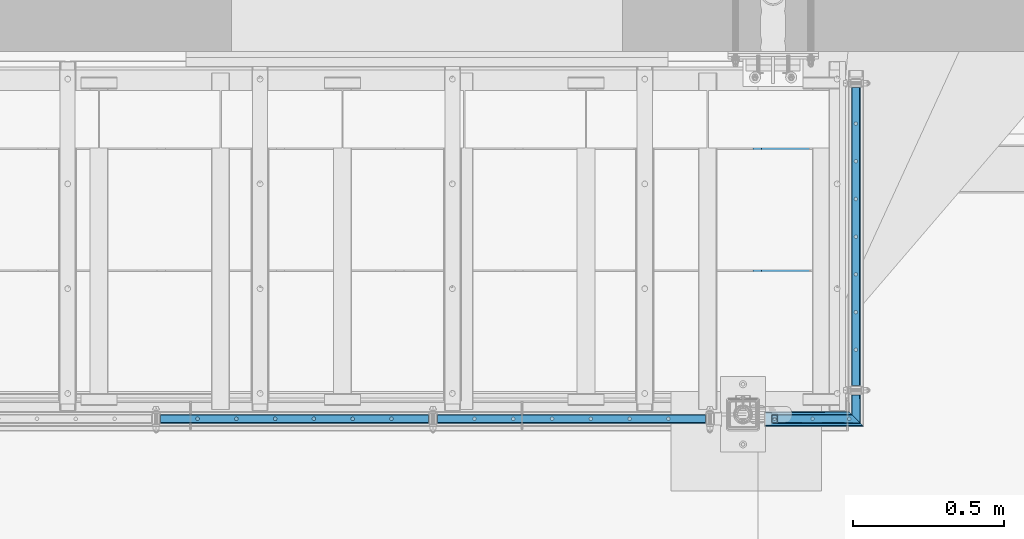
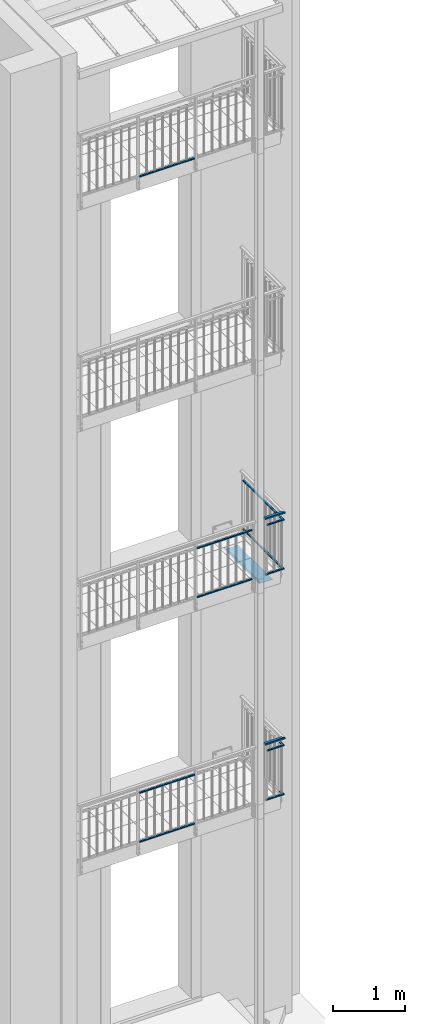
# One storey, part 51 of 162: 18 beams, 60 openings.
"""IFC2X3 building model written with IfcOpenShell, lengths in millimetres."""

from ifc_helpers import new_model, entity, si_unit, converted_unit, frame, frame_2d, origin, origin_with_axes, origin_2d, origin_2d_with_axis, place, context, project, spatial, polyline, hollow_rectangle, circle, outline, extrude, clip, halfspace, material, element, save


model = new_model("IFC2X3")

# Units and contexts
model_context = context("Model", 3, precision=1e-09, world=origin_with_axes())
ifc_project = project(units=[si_unit("LENGTHUNIT", "METRE", prefix="MILLI"), si_unit("AREAUNIT", "SQUARE_METRE"), si_unit("VOLUMEUNIT", "CUBIC_METRE"), converted_unit("PLANEANGLEUNIT", "DEGREE", entity("IfcPlaneAngleMeasure", 0.01745329), si_unit("PLANEANGLEUNIT", "RADIAN"), dimensions=[0, 0, 0, 0, 0, 0, 0])], contexts=[model_context])

# Site, building, storey
site_placement = place(None, origin_with_axes())
site = spatial("IfcSite", under=ifc_project, at=site_placement, Name="Hermannstra?e 1a, 60318 Frankfurt", CompositionType="ELEMENT")
building_placement = place(site_placement, origin_with_axes())
building = spatial("IfcBuilding", under=site, at=building_placement, Name="Struktur 1", CompositionType="ELEMENT")
storey_placement = place(building_placement, origin_with_axes())
storey = spatial("IfcBuildingStorey", under=building, at=storey_placement, Name="Default Storey", CompositionType="ELEMENT", Elevation=0.0)

# Beam, opening
ifc_material_1 = material(Name="S235JR")
beam_1_placement = place(None, frame((5889.540421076, 1515.609373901, 4940.0), z_axis=(-1.0, 0.0, 0.0), x_axis=(0.0, 0.0, -1.0)))
beam_1 = element("IfcBeam", 1, at=beam_1_placement, inside=storey, material=ifc_material_1, Name="-", ObjectType="-", context=model_context, shape_type="Clipping", body=[
    clip(extrude(hollow_rectangle(XDim=30.0, YDim=50.0, WallThickness=3.0, InnerFilletRadius=3.0, OuterFilletRadius=6.0, at=origin_2d()), origin(), (0.0, 0.0, 1.0), 341.231056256), halfspace(frame((4940.0, -2166.349288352, 2207.581758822), z_axis=(0.0, 0.707106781, 0.707106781), x_axis=(0.0, 0.707106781, -0.707106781)), True)),
])
opening_1_placement = place(beam_1_placement, frame((11.5, 0.0, 306.231056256), z_axis=(1.0, 0.0, 0.0), x_axis=(0.0, 0.0, 1.0)))
element("IfcOpeningElement", 2, at=opening_1_placement, cuts=beam_1, ObjectType="Opening", context=model_context, shape_type="SweptSolid", body=[
    extrude(circle(Radius=5.001, at=frame_2d((5.0, 0.0), x_axis=(1.0, 0.0))), origin(), (0.0, 0.0, 1.0), 4.0),
])

# Beam, openings
beam_2_placement = place(None, frame((5873.804462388, 1515.609373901, 4815.0), z_axis=(-1.0, 0.0, 0.0), x_axis=(0.0, 0.0, -1.0)))
beam_2 = element("IfcBeam", 3, at=beam_2_placement, inside=storey, material=ifc_material_1, Name="-", ObjectType="-", context=model_context, shape_type="Clipping", body=[
    clip(extrude(hollow_rectangle(XDim=20.0, YDim=30.0, WallThickness=2.0, InnerFilletRadius=2.0, OuterFilletRadius=4.0, at=origin_2d()), origin(), (0.0, 0.0, 1.0), 285.495097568), halfspace(frame((4815.0, -2166.349288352, 2191.845800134), z_axis=(0.0, 0.707106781, 0.707106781), x_axis=(0.0, 0.707106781, -0.707106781)), True)),
])
opening_2_placement = place(beam_2_placement, frame((7.5, 6.051, 169.495097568), z_axis=(-1.0, 0.0, 0.0), x_axis=(0.0, -1.0, 0.0)))
element("IfcOpeningElement", 4, at=opening_2_placement, cuts=beam_2, ObjectType="Opening", context=model_context, shape_type="SweptSolid", body=[
    extrude(circle(Radius=6.051, at=frame_2d((6.051, 0.0), x_axis=(1.0, 0.0))), origin(), (0.0, 0.0, -1.0), 3.0),
])
opening_3_placement = place(beam_2_placement, frame((7.5, 6.051, 47.495097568), z_axis=(-1.0, 0.0, 0.0), x_axis=(0.0, -1.0, 0.0)))
element("IfcOpeningElement", 5, at=opening_3_placement, cuts=beam_2, ObjectType="Opening", context=model_context, shape_type="SweptSolid", body=[
    extrude(circle(Radius=6.051, at=frame_2d((6.051, 0.0), x_axis=(1.0, 0.0))), origin(), (0.0, 0.0, -1.0), 3.0),
])

beam_3_placement = place(None, frame((5873.804462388, 1515.609373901, 3985.0), z_axis=(-1.0, 0.0, 0.0), x_axis=(0.0, 0.0, -1.0)))
beam_3 = element("IfcBeam", 6, at=beam_3_placement, inside=storey, material=ifc_material_1, Name="-", ObjectType="-", context=model_context, shape_type="Clipping", body=[
    clip(clip(extrude(hollow_rectangle(XDim=20.0, YDim=30.0, WallThickness=2.0, InnerFilletRadius=2.0, OuterFilletRadius=4.0, at=origin_2d()), origin(), (0.0, 0.0, 1.0), 320.990195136), halfspace(frame((4781.655389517, 1515.609373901, 5077.149072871), z_axis=(0.707106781, 0.0, -0.707106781), x_axis=(0.0, -1.0, 0.0)), True)), halfspace(frame((3985.0, -2166.349288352, 2191.845800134), z_axis=(0.0, 0.707106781, 0.707106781), x_axis=(0.0, 0.707106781, -0.707106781)), True)),
])
opening_4_placement = place(beam_3_placement, frame((-7.5, -6.051, 169.495097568), z_axis=(1.0, 0.0, 0.0), x_axis=(0.0, 1.0, 0.0)))
element("IfcOpeningElement", 7, at=opening_4_placement, cuts=beam_3, ObjectType="Opening", context=model_context, shape_type="SweptSolid", body=[
    extrude(circle(Radius=6.051, at=frame_2d((6.051, 0.0), x_axis=(1.0, 0.0))), origin(), (0.0, 0.0, -1.0), 3.0),
])
opening_5_placement = place(beam_3_placement, frame((7.5, 0.0, 265.495097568), z_axis=(1.0, 0.0, 0.0), x_axis=(0.0, 0.0, 1.0)))
element("IfcOpeningElement", 8, at=opening_5_placement, cuts=beam_3, ObjectType="Opening", context=model_context, shape_type="SweptSolid", body=[
    extrude(circle(Radius=5.001, at=frame_2d((30.0, 0.0), x_axis=(1.0, 0.0))), origin(), (0.0, 0.0, 1.0), 3.0),
])
opening_6_placement = place(beam_3_placement, frame((-7.5, -6.051, 47.495097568), z_axis=(1.0, 0.0, 0.0), x_axis=(0.0, 1.0, 0.0)))
element("IfcOpeningElement", 9, at=opening_6_placement, cuts=beam_3, ObjectType="Opening", context=model_context, shape_type="SweptSolid", body=[
    extrude(circle(Radius=6.051, at=frame_2d((6.051, 0.0), x_axis=(1.0, 0.0))), origin(), (0.0, 0.0, -1.0), 3.0),
])

# Beam, opening
beam_4_placement = place(None, frame((5848.30936482, 1490.114276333, 4815.0), z_axis=(0.0, 1.0, 0.0), x_axis=(0.0, 0.0, -1.0)))
beam_4 = element("IfcBeam", 10, at=beam_4_placement, inside=storey, material=ifc_material_1, Name="-", ObjectType="-", context=model_context, shape_type="Clipping", body=[
    clip(extrude(hollow_rectangle(XDim=20.0, YDim=30.0, WallThickness=2.0, InnerFilletRadius=2.0, OuterFilletRadius=4.0, at=origin_2d()), origin(), (0.0, 0.0, 1.0), 105.495097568), halfspace(frame((4815.0, 2166.349288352, 2191.845800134), z_axis=(0.0, -0.707106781, 0.707106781), x_axis=(0.0, 0.707106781, 0.707106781)), True)),
])
opening_7_placement = place(beam_4_placement, frame((0.0, -12.5, 10.495097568), z_axis=(0.0, -1.0, 0.0), x_axis=(0.0, 0.0, 1.0)))
element("IfcOpeningElement", 11, at=opening_7_placement, cuts=beam_4, ObjectType="Opening", context=model_context, shape_type="SweptSolid", body=[
    extrude(circle(Radius=4.001, at=frame_2d((10.0, 0.0), x_axis=(1.0, 0.0))), origin(), (0.0, 0.0, 1.0), 3.0),
])

beam_5_placement = place(None, frame((5848.30936482, 1490.114276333, 3985.0), z_axis=(0.0, 1.0, 0.0), x_axis=(0.0, 0.0, -1.0)))
beam_5 = element("IfcBeam", 12, at=beam_5_placement, inside=storey, material=ifc_material_1, Name="-", ObjectType="-", context=model_context, shape_type="Clipping", body=[
    clip(extrude(hollow_rectangle(XDim=20.0, YDim=30.0, WallThickness=2.0, InnerFilletRadius=2.0, OuterFilletRadius=4.0, at=origin_2d()), origin(), (0.0, 0.0, 1.0), 105.495097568), halfspace(frame((3985.0, 2166.349288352, 2191.845800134), z_axis=(0.0, -0.707106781, 0.707106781), x_axis=(0.0, 0.707106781, 0.707106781)), True)),
])
opening_8_placement = place(beam_5_placement, frame((0.0, -12.5, 10.496511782), z_axis=(0.0, -1.0, 0.0), x_axis=(0.0, 0.0, 1.0)))
element("IfcOpeningElement", 13, at=opening_8_placement, cuts=beam_5, ObjectType="Opening", context=model_context, shape_type="SweptSolid", body=[
    extrude(circle(Radius=4.001, at=frame_2d((10.0, 0.0), x_axis=(1.0, 0.0))), origin(), (0.0, 0.0, 1.0), 3.0),
])

# Beam
ifc_material_2 = material(Name="Alu")
beam_6_placement = place(None, frame((5742.80936482, 1625.609373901, 7577.0), z_axis=(0.0, -1.0, 0.0), x_axis=(1.0, 0.0, 0.0)))
element("IfcBeam", 14, at=beam_6_placement, inside=storey, material=ifc_material_2, Name="-", ObjectType="-", context=model_context, shape_type="SweptSolid", body=[
    extrude(outline(polyline([(-235.449159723, 49.122617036), (-210.0, 52.699263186), (-210.0, 18.0), (-2.0, 18.0), (-2.0, 0.0), (0.0, 0.0), (0.0, 20.0), (-208.0, 20.0), (-208.0, 55.0), (-235.727505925, 51.103153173), (-235.449159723, 49.122617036)])), origin(), (0.0, 0.0, -1.0), 960.0),
])

# Beam, opening
beam_7_placement = place(None, frame((5848.30936482, 1490.114276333, 7810.0), z_axis=(0.0, 1.0, 0.0), x_axis=(0.0, 0.0, -1.0)))
beam_7 = element("IfcBeam", 15, at=beam_7_placement, inside=storey, material=ifc_material_1, Name="-", ObjectType="-", context=model_context, shape_type="Clipping", body=[
    clip(extrude(hollow_rectangle(XDim=20.0, YDim=30.0, WallThickness=2.0, InnerFilletRadius=2.0, OuterFilletRadius=4.0, at=origin_2d()), origin(), (0.0, 0.0, 1.0), 105.495097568), halfspace(frame((7810.0, 2166.349288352, 2191.845800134), z_axis=(0.0, -0.707106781, 0.707106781), x_axis=(0.0, 0.707106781, 0.707106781)), True)),
])
opening_9_placement = place(beam_7_placement, frame((0.0, -12.5, 10.496511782), z_axis=(0.0, -1.0, 0.0), x_axis=(0.0, 0.0, 1.0)))
element("IfcOpeningElement", 16, at=opening_9_placement, cuts=beam_7, ObjectType="Opening", context=model_context, shape_type="SweptSolid", body=[
    extrude(circle(Radius=4.001, at=frame_2d((10.0, 0.0), x_axis=(1.0, 0.0))), origin(), (0.0, 0.0, 1.0), 3.0),
])

beam_8_placement = place(None, frame((5848.30936482, 1490.114276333, 8640.0), z_axis=(0.0, 1.0, 0.0), x_axis=(0.0, 0.0, -1.0)))
beam_8 = element("IfcBeam", 17, at=beam_8_placement, inside=storey, material=ifc_material_1, Name="-", ObjectType="-", context=model_context, shape_type="Clipping", body=[
    clip(extrude(hollow_rectangle(XDim=20.0, YDim=30.0, WallThickness=2.0, InnerFilletRadius=2.0, OuterFilletRadius=4.0, at=origin_2d()), origin(), (0.0, 0.0, 1.0), 105.495097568), halfspace(frame((8640.0, 2166.349288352, 2191.845800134), z_axis=(0.0, -0.707106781, 0.707106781), x_axis=(0.0, 0.707106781, 0.707106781)), True)),
])
opening_10_placement = place(beam_8_placement, frame((0.0, -12.5, 10.495097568), z_axis=(0.0, -1.0, 0.0), x_axis=(0.0, 0.0, 1.0)))
element("IfcOpeningElement", 18, at=opening_10_placement, cuts=beam_8, ObjectType="Opening", context=model_context, shape_type="SweptSolid", body=[
    extrude(circle(Radius=4.001, at=frame_2d((10.0, 0.0), x_axis=(1.0, 0.0))), origin(), (0.0, 0.0, 1.0), 3.0),
])

# Beam, openings
beam_9_placement = place(None, frame((5873.804462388, 1515.609373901, 7810.0), z_axis=(-1.0, 0.0, 0.0), x_axis=(0.0, 0.0, -1.0)))
beam_9 = element("IfcBeam", 19, at=beam_9_placement, inside=storey, material=ifc_material_1, Name="-", ObjectType="-", context=model_context, shape_type="Clipping", body=[
    clip(clip(extrude(hollow_rectangle(XDim=20.0, YDim=30.0, WallThickness=2.0, InnerFilletRadius=2.0, OuterFilletRadius=4.0, at=origin_2d()), origin(), (0.0, 0.0, 1.0), 320.990195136), halfspace(frame((6694.155389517, 1515.609373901, 6989.649072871), z_axis=(0.707106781, 0.0, -0.707106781), x_axis=(0.0, -1.0, 0.0)), True)), halfspace(frame((7810.0, -2166.349288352, 2191.845800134), z_axis=(0.0, 0.707106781, 0.707106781), x_axis=(0.0, 0.707106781, -0.707106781)), True)),
])
opening_11_placement = place(beam_9_placement, frame((-7.5, -6.051, 169.495097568), z_axis=(1.0, 0.0, 0.0), x_axis=(0.0, 1.0, 0.0)))
element("IfcOpeningElement", 20, at=opening_11_placement, cuts=beam_9, ObjectType="Opening", context=model_context, shape_type="SweptSolid", body=[
    extrude(circle(Radius=6.051, at=frame_2d((6.051, 0.0), x_axis=(1.0, 0.0))), origin(), (0.0, 0.0, -1.0), 3.0),
])
opening_12_placement = place(beam_9_placement, frame((7.5, 0.0, 265.495097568), z_axis=(1.0, 0.0, 0.0), x_axis=(0.0, 0.0, 1.0)))
element("IfcOpeningElement", 21, at=opening_12_placement, cuts=beam_9, ObjectType="Opening", context=model_context, shape_type="SweptSolid", body=[
    extrude(circle(Radius=5.001, at=frame_2d((30.0, 0.0), x_axis=(1.0, 0.0))), origin(), (0.0, 0.0, 1.0), 3.0),
])
opening_13_placement = place(beam_9_placement, frame((-7.5, -6.051, 47.495097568), z_axis=(1.0, 0.0, 0.0), x_axis=(0.0, 1.0, 0.0)))
element("IfcOpeningElement", 22, at=opening_13_placement, cuts=beam_9, ObjectType="Opening", context=model_context, shape_type="SweptSolid", body=[
    extrude(circle(Radius=6.051, at=frame_2d((6.051, 0.0), x_axis=(1.0, 0.0))), origin(), (0.0, 0.0, -1.0), 3.0),
])

beam_10_placement = place(None, frame((5873.804462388, 1515.609373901, 8640.0), z_axis=(-1.0, 0.0, 0.0), x_axis=(0.0, 0.0, -1.0)))
beam_10 = element("IfcBeam", 23, at=beam_10_placement, inside=storey, material=ifc_material_1, Name="-", ObjectType="-", context=model_context, shape_type="Clipping", body=[
    clip(extrude(hollow_rectangle(XDim=20.0, YDim=30.0, WallThickness=2.0, InnerFilletRadius=2.0, OuterFilletRadius=4.0, at=origin_2d()), origin(), (0.0, 0.0, 1.0), 285.495097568), halfspace(frame((8640.0, -2166.349288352, 2191.845800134), z_axis=(0.0, 0.707106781, 0.707106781), x_axis=(0.0, 0.707106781, -0.707106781)), True)),
])
opening_14_placement = place(beam_10_placement, frame((7.5, 6.051, 169.495097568), z_axis=(-1.0, 0.0, 0.0), x_axis=(0.0, -1.0, 0.0)))
element("IfcOpeningElement", 24, at=opening_14_placement, cuts=beam_10, ObjectType="Opening", context=model_context, shape_type="SweptSolid", body=[
    extrude(circle(Radius=6.051, at=frame_2d((6.051, 0.0), x_axis=(1.0, 0.0))), origin(), (0.0, 0.0, -1.0), 3.0),
])
opening_15_placement = place(beam_10_placement, frame((7.5, 6.051, 47.495097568), z_axis=(-1.0, 0.0, 0.0), x_axis=(0.0, -1.0, 0.0)))
element("IfcOpeningElement", 25, at=opening_15_placement, cuts=beam_10, ObjectType="Opening", context=model_context, shape_type="SweptSolid", body=[
    extrude(circle(Radius=6.051, at=frame_2d((6.051, 0.0), x_axis=(1.0, 0.0))), origin(), (0.0, 0.0, -1.0), 3.0),
])

# Beam, opening
beam_11_placement = place(None, frame((5889.540421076, 1515.609373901, 8765.0), z_axis=(-1.0, 0.0, 0.0), x_axis=(0.0, 0.0, -1.0)))
beam_11 = element("IfcBeam", 26, at=beam_11_placement, inside=storey, material=ifc_material_1, Name="-", ObjectType="-", context=model_context, shape_type="Clipping", body=[
    clip(extrude(hollow_rectangle(XDim=30.0, YDim=50.0, WallThickness=3.0, InnerFilletRadius=3.0, OuterFilletRadius=6.0, at=origin_2d()), origin(), (0.0, 0.0, 1.0), 341.231056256), halfspace(frame((8765.0, -2166.349288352, 2207.581758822), z_axis=(0.0, 0.707106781, 0.707106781), x_axis=(0.0, 0.707106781, -0.707106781)), True)),
])
opening_16_placement = place(beam_11_placement, frame((11.5, 0.0, 306.231056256), z_axis=(1.0, 0.0, 0.0), x_axis=(0.0, 0.0, 1.0)))
element("IfcOpeningElement", 27, at=opening_16_placement, cuts=beam_11, ObjectType="Opening", context=model_context, shape_type="SweptSolid", body=[
    extrude(circle(Radius=5.001, at=frame_2d((5.0, 0.0), x_axis=(1.0, 0.0))), origin(), (0.0, 0.0, 1.0), 4.0),
])

# Beam, openings
beam_12_placement = place(None, frame((4458.30936482, 1515.609373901, 8640.0), z_axis=(-1.0, 0.0, 0.0), x_axis=(0.0, 0.0, -1.0)))
beam_12 = element("IfcBeam", 28, at=beam_12_placement, inside=storey, material=ifc_material_1, Name="-", ObjectType="-", context=model_context, shape_type="SweptSolid", body=[
    extrude(hollow_rectangle(XDim=20.0, YDim=30.0, WallThickness=2.0, InnerFilletRadius=2.0, OuterFilletRadius=4.0, at=origin_2d()), origin(), (0.0, 0.0, -1.0), 890.0),
])
opening_17_placement = place(beam_12_placement, frame((7.5, 0.0, -251.714285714), z_axis=(1.0, 0.0, 0.0), x_axis=(0.0, -1.0, 0.0)))
element("IfcOpeningElement", 29, at=opening_17_placement, cuts=beam_12, ObjectType="Opening", context=model_context, shape_type="SweptSolid", body=[
    extrude(circle(Radius=6.051, at=origin_2d_with_axis()), origin(), (0.0, 0.0, 1.0), 3.0),
])
opening_18_placement = place(beam_12_placement, frame((7.5, 0.0, -122.857142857), z_axis=(1.0, 0.0, 0.0), x_axis=(0.0, -1.0, 0.0)))
element("IfcOpeningElement", 30, at=opening_18_placement, cuts=beam_12, ObjectType="Opening", context=model_context, shape_type="SweptSolid", body=[
    extrude(circle(Radius=6.051, at=origin_2d_with_axis()), origin(), (0.0, 0.0, 1.0), 3.0),
])
opening_19_placement = place(beam_12_placement, frame((7.5, 0.0, -509.428571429), z_axis=(1.0, 0.0, 0.0), x_axis=(0.0, -1.0, 0.0)))
element("IfcOpeningElement", 31, at=opening_19_placement, cuts=beam_12, ObjectType="Opening", context=model_context, shape_type="SweptSolid", body=[
    extrude(circle(Radius=6.051, at=origin_2d_with_axis()), origin(), (0.0, 0.0, 1.0), 3.0),
])
opening_20_placement = place(beam_12_placement, frame((7.5, 0.0, -380.571428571), z_axis=(1.0, 0.0, 0.0), x_axis=(0.0, -1.0, 0.0)))
element("IfcOpeningElement", 32, at=opening_20_placement, cuts=beam_12, ObjectType="Opening", context=model_context, shape_type="SweptSolid", body=[
    extrude(circle(Radius=6.051, at=origin_2d_with_axis()), origin(), (0.0, 0.0, 1.0), 3.0),
])
opening_21_placement = place(beam_12_placement, frame((7.5, 0.0, -638.285714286), z_axis=(1.0, 0.0, 0.0), x_axis=(0.0, -1.0, 0.0)))
element("IfcOpeningElement", 33, at=opening_21_placement, cuts=beam_12, ObjectType="Opening", context=model_context, shape_type="SweptSolid", body=[
    extrude(circle(Radius=6.051, at=origin_2d_with_axis()), origin(), (0.0, 0.0, 1.0), 3.0),
])
opening_22_placement = place(beam_12_placement, frame((7.5, 0.0, -767.142857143), z_axis=(1.0, 0.0, 0.0), x_axis=(0.0, -1.0, 0.0)))
element("IfcOpeningElement", 34, at=opening_22_placement, cuts=beam_12, ObjectType="Opening", context=model_context, shape_type="SweptSolid", body=[
    extrude(circle(Radius=6.051, at=origin_2d_with_axis()), origin(), (0.0, 0.0, 1.0), 3.0),
])

beam_13_placement = place(None, frame((4458.30936482, 1515.609373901, 7810.0), z_axis=(-1.0, 0.0, 0.0), x_axis=(0.0, 0.0, -1.0)))
beam_13 = element("IfcBeam", 35, at=beam_13_placement, inside=storey, material=ifc_material_1, Name="-", ObjectType="-", context=model_context, shape_type="SweptSolid", body=[
    extrude(hollow_rectangle(XDim=20.0, YDim=30.0, WallThickness=2.0, InnerFilletRadius=2.0, OuterFilletRadius=4.0, at=origin_2d()), origin(), (0.0, 0.0, -1.0), 890.0),
])
opening_23_placement = place(beam_13_placement, frame((-7.5, 0.0, -122.857142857), z_axis=(-1.0, 0.0, 0.0), x_axis=(0.0, 1.0, 0.0)))
element("IfcOpeningElement", 36, at=opening_23_placement, cuts=beam_13, ObjectType="Opening", context=model_context, shape_type="SweptSolid", body=[
    extrude(circle(Radius=6.051, at=origin_2d_with_axis()), origin(), (0.0, 0.0, 1.0), 3.0),
])
opening_24_placement = place(beam_13_placement, frame((-7.5, 0.0, -251.714285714), z_axis=(-1.0, 0.0, 0.0), x_axis=(0.0, 1.0, 0.0)))
element("IfcOpeningElement", 37, at=opening_24_placement, cuts=beam_13, ObjectType="Opening", context=model_context, shape_type="SweptSolid", body=[
    extrude(circle(Radius=6.051, at=origin_2d_with_axis()), origin(), (0.0, 0.0, 1.0), 3.0),
])
opening_25_placement = place(beam_13_placement, frame((-7.5, 0.0, -638.285714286), z_axis=(-1.0, 0.0, 0.0), x_axis=(0.0, 1.0, 0.0)))
element("IfcOpeningElement", 38, at=opening_25_placement, cuts=beam_13, ObjectType="Opening", context=model_context, shape_type="SweptSolid", body=[
    extrude(circle(Radius=6.051, at=origin_2d_with_axis()), origin(), (0.0, 0.0, 1.0), 3.0),
])
opening_26_placement = place(beam_13_placement, frame((-7.5, 0.0, -509.428571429), z_axis=(-1.0, 0.0, 0.0), x_axis=(0.0, 1.0, 0.0)))
element("IfcOpeningElement", 39, at=opening_26_placement, cuts=beam_13, ObjectType="Opening", context=model_context, shape_type="SweptSolid", body=[
    extrude(circle(Radius=6.051, at=origin_2d_with_axis()), origin(), (0.0, 0.0, 1.0), 3.0),
])
opening_27_placement = place(beam_13_placement, frame((-7.5, 0.0, -767.142857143), z_axis=(-1.0, 0.0, 0.0), x_axis=(0.0, 1.0, 0.0)))
element("IfcOpeningElement", 40, at=opening_27_placement, cuts=beam_13, ObjectType="Opening", context=model_context, shape_type="SweptSolid", body=[
    extrude(circle(Radius=6.051, at=origin_2d_with_axis()), origin(), (0.0, 0.0, 1.0), 3.0),
])
opening_28_placement = place(beam_13_placement, frame((-7.5, 0.0, -380.571428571), z_axis=(-1.0, 0.0, 0.0), x_axis=(0.0, 1.0, 0.0)))
element("IfcOpeningElement", 41, at=opening_28_placement, cuts=beam_13, ObjectType="Opening", context=model_context, shape_type="SweptSolid", body=[
    extrude(circle(Radius=6.051, at=origin_2d_with_axis()), origin(), (0.0, 0.0, 1.0), 3.0),
])

beam_14_placement = place(None, frame((5848.30936482, 2615.609373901, 8640.0), z_axis=(0.0, 1.0, 0.0), x_axis=(0.0, 0.0, -1.0)))
beam_14 = element("IfcBeam", 42, at=beam_14_placement, inside=storey, material=ifc_material_1, Name="-", ObjectType="-", context=model_context, shape_type="SweptSolid", body=[
    extrude(hollow_rectangle(XDim=20.0, YDim=30.0, WallThickness=2.0, InnerFilletRadius=2.0, OuterFilletRadius=4.0, at=origin_2d()), origin(), (0.0, 0.0, -1.0), 990.0),
])
opening_29_placement = place(beam_14_placement, frame((7.5, 0.0, -495.0), z_axis=(1.0, 0.0, 0.0), x_axis=(0.0, -1.0, 0.0)))
element("IfcOpeningElement", 43, at=opening_29_placement, cuts=beam_14, ObjectType="Opening", context=model_context, shape_type="SweptSolid", body=[
    extrude(circle(Radius=6.051, at=origin_2d_with_axis()), origin(), (0.0, 0.0, 1.0), 3.0),
])
opening_30_placement = place(beam_14_placement, frame((7.5, 0.0, -870.75), z_axis=(1.0, 0.0, 0.0), x_axis=(0.0, -1.0, 0.0)))
element("IfcOpeningElement", 44, at=opening_30_placement, cuts=beam_14, ObjectType="Opening", context=model_context, shape_type="SweptSolid", body=[
    extrude(circle(Radius=6.051, at=origin_2d_with_axis()), origin(), (0.0, 0.0, 1.0), 3.0),
])
opening_31_placement = place(beam_14_placement, frame((7.5, 0.0, -620.25), z_axis=(1.0, 0.0, 0.0), x_axis=(0.0, -1.0, 0.0)))
element("IfcOpeningElement", 45, at=opening_31_placement, cuts=beam_14, ObjectType="Opening", context=model_context, shape_type="SweptSolid", body=[
    extrude(circle(Radius=6.051, at=origin_2d_with_axis()), origin(), (0.0, 0.0, 1.0), 3.0),
])
opening_32_placement = place(beam_14_placement, frame((7.5, 0.0, -745.5), z_axis=(1.0, 0.0, 0.0), x_axis=(0.0, -1.0, 0.0)))
element("IfcOpeningElement", 46, at=opening_32_placement, cuts=beam_14, ObjectType="Opening", context=model_context, shape_type="SweptSolid", body=[
    extrude(circle(Radius=6.051, at=origin_2d_with_axis()), origin(), (0.0, 0.0, 1.0), 3.0),
])
opening_33_placement = place(beam_14_placement, frame((7.5, 0.0, -244.5), z_axis=(1.0, 0.0, 0.0), x_axis=(0.0, -1.0, 0.0)))
element("IfcOpeningElement", 47, at=opening_33_placement, cuts=beam_14, ObjectType="Opening", context=model_context, shape_type="SweptSolid", body=[
    extrude(circle(Radius=6.051, at=origin_2d_with_axis()), origin(), (0.0, 0.0, 1.0), 3.0),
])
opening_34_placement = place(beam_14_placement, frame((7.5, 0.0, -369.75), z_axis=(1.0, 0.0, 0.0), x_axis=(0.0, -1.0, 0.0)))
element("IfcOpeningElement", 48, at=opening_34_placement, cuts=beam_14, ObjectType="Opening", context=model_context, shape_type="SweptSolid", body=[
    extrude(circle(Radius=6.051, at=origin_2d_with_axis()), origin(), (0.0, 0.0, 1.0), 3.0),
])
opening_35_placement = place(beam_14_placement, frame((7.5, 0.0, -119.25), z_axis=(1.0, 0.0, 0.0), x_axis=(0.0, -1.0, 0.0)))
element("IfcOpeningElement", 49, at=opening_35_placement, cuts=beam_14, ObjectType="Opening", context=model_context, shape_type="SweptSolid", body=[
    extrude(circle(Radius=6.051, at=origin_2d_with_axis()), origin(), (0.0, 0.0, 1.0), 3.0),
])

beam_15_placement = place(None, frame((5848.30936482, 2615.609373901, 7810.0), z_axis=(0.0, 1.0, 0.0), x_axis=(0.0, 0.0, -1.0)))
beam_15 = element("IfcBeam", 50, at=beam_15_placement, inside=storey, material=ifc_material_1, Name="-", ObjectType="-", context=model_context, shape_type="SweptSolid", body=[
    extrude(hollow_rectangle(XDim=20.0, YDim=30.0, WallThickness=2.0, InnerFilletRadius=2.0, OuterFilletRadius=4.0, at=origin_2d()), origin(), (0.0, 0.0, -1.0), 990.0),
])
opening_36_placement = place(beam_15_placement, frame((-7.5, 0.0, -870.75), z_axis=(-1.0, 0.0, 0.0), x_axis=(0.0, 1.0, 0.0)))
element("IfcOpeningElement", 51, at=opening_36_placement, cuts=beam_15, ObjectType="Opening", context=model_context, shape_type="SweptSolid", body=[
    extrude(circle(Radius=6.051, at=origin_2d_with_axis()), origin(), (0.0, 0.0, 1.0), 3.0),
])
opening_37_placement = place(beam_15_placement, frame((-7.5, 0.0, -745.5), z_axis=(-1.0, 0.0, 0.0), x_axis=(0.0, 1.0, 0.0)))
element("IfcOpeningElement", 52, at=opening_37_placement, cuts=beam_15, ObjectType="Opening", context=model_context, shape_type="SweptSolid", body=[
    extrude(circle(Radius=6.051, at=origin_2d_with_axis()), origin(), (0.0, 0.0, 1.0), 3.0),
])
opening_38_placement = place(beam_15_placement, frame((-7.5, 0.0, -620.25), z_axis=(-1.0, 0.0, 0.0), x_axis=(0.0, 1.0, 0.0)))
element("IfcOpeningElement", 53, at=opening_38_placement, cuts=beam_15, ObjectType="Opening", context=model_context, shape_type="SweptSolid", body=[
    extrude(circle(Radius=6.051, at=origin_2d_with_axis()), origin(), (0.0, 0.0, 1.0), 3.0),
])
opening_39_placement = place(beam_15_placement, frame((-7.5, 0.0, -495.0), z_axis=(-1.0, 0.0, 0.0), x_axis=(0.0, 1.0, 0.0)))
element("IfcOpeningElement", 54, at=opening_39_placement, cuts=beam_15, ObjectType="Opening", context=model_context, shape_type="SweptSolid", body=[
    extrude(circle(Radius=6.051, at=origin_2d_with_axis()), origin(), (0.0, 0.0, 1.0), 3.0),
])
opening_40_placement = place(beam_15_placement, frame((-7.5, 0.0, -369.75), z_axis=(-1.0, 0.0, 0.0), x_axis=(0.0, 1.0, 0.0)))
element("IfcOpeningElement", 55, at=opening_40_placement, cuts=beam_15, ObjectType="Opening", context=model_context, shape_type="SweptSolid", body=[
    extrude(circle(Radius=6.051, at=origin_2d_with_axis()), origin(), (0.0, 0.0, 1.0), 3.0),
])
opening_41_placement = place(beam_15_placement, frame((-7.5, 0.0, -119.25), z_axis=(-1.0, 0.0, 0.0), x_axis=(0.0, 1.0, 0.0)))
element("IfcOpeningElement", 56, at=opening_41_placement, cuts=beam_15, ObjectType="Opening", context=model_context, shape_type="SweptSolid", body=[
    extrude(circle(Radius=6.051, at=origin_2d_with_axis()), origin(), (0.0, 0.0, 1.0), 3.0),
])
opening_42_placement = place(beam_15_placement, frame((-7.5, 0.0, -244.5), z_axis=(-1.0, 0.0, 0.0), x_axis=(0.0, 1.0, 0.0)))
element("IfcOpeningElement", 57, at=opening_42_placement, cuts=beam_15, ObjectType="Opening", context=model_context, shape_type="SweptSolid", body=[
    extrude(circle(Radius=6.051, at=origin_2d_with_axis()), origin(), (0.0, 0.0, 1.0), 3.0),
])

beam_16_placement = place(None, frame((3538.30936482, 1515.609373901, 15266.999), z_axis=(-1.0, 0.0, 0.0), x_axis=(0.0, 0.0, -1.0)))
beam_16 = element("IfcBeam", 58, at=beam_16_placement, inside=storey, material=ifc_material_1, Name="-", ObjectType="-", context=model_context, shape_type="SweptSolid", body=[
    extrude(hollow_rectangle(XDim=20.0, YDim=30.0, WallThickness=2.0, InnerFilletRadius=2.0, OuterFilletRadius=4.0, at=origin_2d()), origin(), (0.0, 0.0, -1.0), 890.0),
])
opening_43_placement = place(beam_16_placement, frame((-7.5, 0.0, -122.857142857), z_axis=(-1.0, 0.0, 0.0), x_axis=(0.0, 1.0, 0.0)))
element("IfcOpeningElement", 59, at=opening_43_placement, cuts=beam_16, ObjectType="Opening", context=model_context, shape_type="SweptSolid", body=[
    extrude(circle(Radius=6.051, at=origin_2d_with_axis()), origin(), (0.0, 0.0, 1.0), 3.0),
])
opening_44_placement = place(beam_16_placement, frame((-7.5, 0.0, -767.142857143), z_axis=(-1.0, 0.0, 0.0), x_axis=(0.0, 1.0, 0.0)))
element("IfcOpeningElement", 60, at=opening_44_placement, cuts=beam_16, ObjectType="Opening", context=model_context, shape_type="SweptSolid", body=[
    extrude(circle(Radius=6.051, at=origin_2d_with_axis()), origin(), (0.0, 0.0, 1.0), 3.0),
])
opening_45_placement = place(beam_16_placement, frame((-7.5, 0.0, -509.428571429), z_axis=(-1.0, 0.0, 0.0), x_axis=(0.0, 1.0, 0.0)))
element("IfcOpeningElement", 61, at=opening_45_placement, cuts=beam_16, ObjectType="Opening", context=model_context, shape_type="SweptSolid", body=[
    extrude(circle(Radius=6.051, at=origin_2d_with_axis()), origin(), (0.0, 0.0, 1.0), 3.0),
])
opening_46_placement = place(beam_16_placement, frame((-7.5, 0.0, -638.285714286), z_axis=(-1.0, 0.0, 0.0), x_axis=(0.0, 1.0, 0.0)))
element("IfcOpeningElement", 62, at=opening_46_placement, cuts=beam_16, ObjectType="Opening", context=model_context, shape_type="SweptSolid", body=[
    extrude(circle(Radius=6.051, at=origin_2d_with_axis()), origin(), (0.0, 0.0, 1.0), 3.0),
])
opening_47_placement = place(beam_16_placement, frame((-7.5, 0.0, -380.571428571), z_axis=(-1.0, 0.0, 0.0), x_axis=(0.0, 1.0, 0.0)))
element("IfcOpeningElement", 63, at=opening_47_placement, cuts=beam_16, ObjectType="Opening", context=model_context, shape_type="SweptSolid", body=[
    extrude(circle(Radius=6.051, at=origin_2d_with_axis()), origin(), (0.0, 0.0, 1.0), 3.0),
])
opening_48_placement = place(beam_16_placement, frame((-7.5, 0.0, -251.714285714), z_axis=(-1.0, 0.0, 0.0), x_axis=(0.0, 1.0, 0.0)))
element("IfcOpeningElement", 64, at=opening_48_placement, cuts=beam_16, ObjectType="Opening", context=model_context, shape_type="SweptSolid", body=[
    extrude(circle(Radius=6.051, at=origin_2d_with_axis()), origin(), (0.0, 0.0, 1.0), 3.0),
])

beam_17_placement = place(None, frame((3538.30936482, 1515.609373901, 4815.0), z_axis=(-1.0, 0.0, 0.0), x_axis=(0.0, 0.0, -1.0)))
beam_17 = element("IfcBeam", 65, at=beam_17_placement, inside=storey, material=ifc_material_1, Name="-", ObjectType="-", context=model_context, shape_type="SweptSolid", body=[
    extrude(hollow_rectangle(XDim=20.0, YDim=30.0, WallThickness=2.0, InnerFilletRadius=2.0, OuterFilletRadius=4.0, at=origin_2d()), origin(), (0.0, 0.0, -1.0), 890.0),
])
opening_49_placement = place(beam_17_placement, frame((7.5, 0.0, -251.714285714), z_axis=(1.0, 0.0, 0.0), x_axis=(0.0, -1.0, 0.0)))
element("IfcOpeningElement", 66, at=opening_49_placement, cuts=beam_17, ObjectType="Opening", context=model_context, shape_type="SweptSolid", body=[
    extrude(circle(Radius=6.051, at=origin_2d_with_axis()), origin(), (0.0, 0.0, 1.0), 3.0),
])
opening_50_placement = place(beam_17_placement, frame((7.5, 0.0, -509.428571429), z_axis=(1.0, 0.0, 0.0), x_axis=(0.0, -1.0, 0.0)))
element("IfcOpeningElement", 67, at=opening_50_placement, cuts=beam_17, ObjectType="Opening", context=model_context, shape_type="SweptSolid", body=[
    extrude(circle(Radius=6.051, at=origin_2d_with_axis()), origin(), (0.0, 0.0, 1.0), 3.0),
])
opening_51_placement = place(beam_17_placement, frame((7.5, 0.0, -638.285714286), z_axis=(1.0, 0.0, 0.0), x_axis=(0.0, -1.0, 0.0)))
element("IfcOpeningElement", 68, at=opening_51_placement, cuts=beam_17, ObjectType="Opening", context=model_context, shape_type="SweptSolid", body=[
    extrude(circle(Radius=6.051, at=origin_2d_with_axis()), origin(), (0.0, 0.0, 1.0), 3.0),
])
opening_52_placement = place(beam_17_placement, frame((7.5, 0.0, -767.142857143), z_axis=(1.0, 0.0, 0.0), x_axis=(0.0, -1.0, 0.0)))
element("IfcOpeningElement", 69, at=opening_52_placement, cuts=beam_17, ObjectType="Opening", context=model_context, shape_type="SweptSolid", body=[
    extrude(circle(Radius=6.051, at=origin_2d_with_axis()), origin(), (0.0, 0.0, 1.0), 3.0),
])
opening_53_placement = place(beam_17_placement, frame((7.5, 0.0, -122.857142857), z_axis=(1.0, 0.0, 0.0), x_axis=(0.0, -1.0, 0.0)))
element("IfcOpeningElement", 70, at=opening_53_placement, cuts=beam_17, ObjectType="Opening", context=model_context, shape_type="SweptSolid", body=[
    extrude(circle(Radius=6.051, at=origin_2d_with_axis()), origin(), (0.0, 0.0, 1.0), 3.0),
])
opening_54_placement = place(beam_17_placement, frame((7.5, 0.0, -380.571428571), z_axis=(1.0, 0.0, 0.0), x_axis=(0.0, -1.0, 0.0)))
element("IfcOpeningElement", 71, at=opening_54_placement, cuts=beam_17, ObjectType="Opening", context=model_context, shape_type="SweptSolid", body=[
    extrude(circle(Radius=6.051, at=origin_2d_with_axis()), origin(), (0.0, 0.0, 1.0), 3.0),
])

beam_18_placement = place(None, frame((3538.30936482, 1515.609373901, 3985.0), z_axis=(-1.0, 0.0, 0.0), x_axis=(0.0, 0.0, -1.0)))
beam_18 = element("IfcBeam", 72, at=beam_18_placement, inside=storey, material=ifc_material_1, Name="-", ObjectType="-", context=model_context, shape_type="SweptSolid", body=[
    extrude(hollow_rectangle(XDim=20.0, YDim=30.0, WallThickness=2.0, InnerFilletRadius=2.0, OuterFilletRadius=4.0, at=origin_2d()), origin(), (0.0, 0.0, -1.0), 890.0),
])
opening_55_placement = place(beam_18_placement, frame((-7.5, 0.0, -122.857142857), z_axis=(-1.0, 0.0, 0.0), x_axis=(0.0, 1.0, 0.0)))
element("IfcOpeningElement", 73, at=opening_55_placement, cuts=beam_18, ObjectType="Opening", context=model_context, shape_type="SweptSolid", body=[
    extrude(circle(Radius=6.051, at=origin_2d_with_axis()), origin(), (0.0, 0.0, 1.0), 3.0),
])
opening_56_placement = place(beam_18_placement, frame((-7.5, 0.0, -767.142857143), z_axis=(-1.0, 0.0, 0.0), x_axis=(0.0, 1.0, 0.0)))
element("IfcOpeningElement", 74, at=opening_56_placement, cuts=beam_18, ObjectType="Opening", context=model_context, shape_type="SweptSolid", body=[
    extrude(circle(Radius=6.051, at=origin_2d_with_axis()), origin(), (0.0, 0.0, 1.0), 3.0),
])
opening_57_placement = place(beam_18_placement, frame((-7.5, 0.0, -509.428571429), z_axis=(-1.0, 0.0, 0.0), x_axis=(0.0, 1.0, 0.0)))
element("IfcOpeningElement", 75, at=opening_57_placement, cuts=beam_18, ObjectType="Opening", context=model_context, shape_type="SweptSolid", body=[
    extrude(circle(Radius=6.051, at=origin_2d_with_axis()), origin(), (0.0, 0.0, 1.0), 3.0),
])
opening_58_placement = place(beam_18_placement, frame((-7.5, 0.0, -638.285714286), z_axis=(-1.0, 0.0, 0.0), x_axis=(0.0, 1.0, 0.0)))
element("IfcOpeningElement", 76, at=opening_58_placement, cuts=beam_18, ObjectType="Opening", context=model_context, shape_type="SweptSolid", body=[
    extrude(circle(Radius=6.051, at=origin_2d_with_axis()), origin(), (0.0, 0.0, 1.0), 3.0),
])
opening_59_placement = place(beam_18_placement, frame((-7.5, 0.0, -380.571428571), z_axis=(-1.0, 0.0, 0.0), x_axis=(0.0, 1.0, 0.0)))
element("IfcOpeningElement", 77, at=opening_59_placement, cuts=beam_18, ObjectType="Opening", context=model_context, shape_type="SweptSolid", body=[
    extrude(circle(Radius=6.051, at=origin_2d_with_axis()), origin(), (0.0, 0.0, 1.0), 3.0),
])
opening_60_placement = place(beam_18_placement, frame((-7.5, 0.0, -251.714285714), z_axis=(-1.0, 0.0, 0.0), x_axis=(0.0, 1.0, 0.0)))
element("IfcOpeningElement", 78, at=opening_60_placement, cuts=beam_18, ObjectType="Opening", context=model_context, shape_type="SweptSolid", body=[
    extrude(circle(Radius=6.051, at=origin_2d_with_axis()), origin(), (0.0, 0.0, 1.0), 3.0),
])

save(model, "model.ifc")
